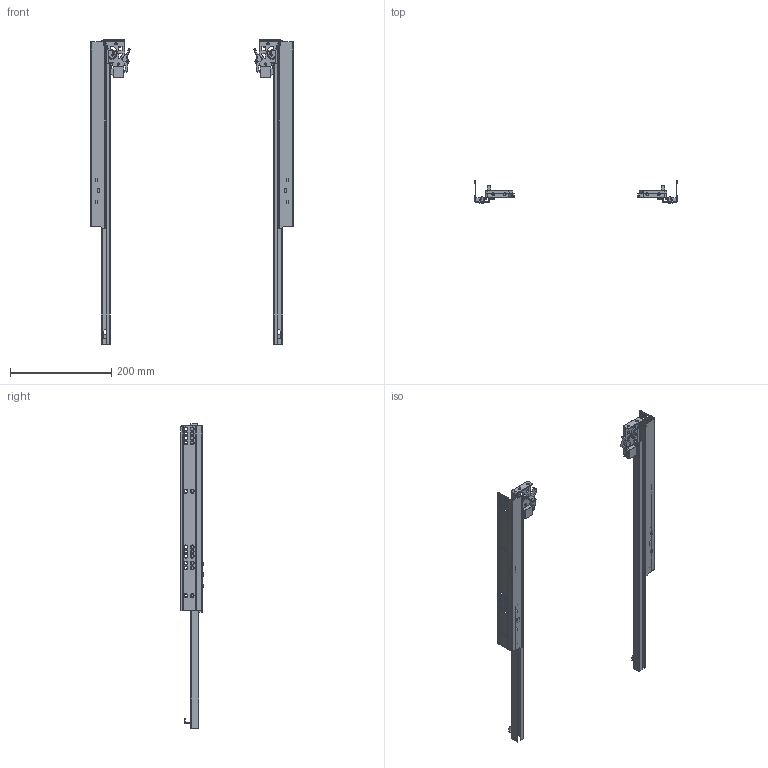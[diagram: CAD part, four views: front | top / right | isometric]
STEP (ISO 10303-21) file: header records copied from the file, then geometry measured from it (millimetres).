
FILE_DESCRIPTION(/* description */ (''),/* implementation_level */ '2;1');
FILE_NAME(/* name */ 'D:\$Workingspace\Designs\Katalog\Cadsoft\GTV Prowadnice\Prowadnice GTV_bryły 3D\PB-GCHX-600.stp',/* time_stamp */ '2016-11-21T15:30:34+01:00',/* author */ ('tomaszw'),/* organization */ (''),/* preprocessor_version */ 'ST-DEVELOPER v16.1',/* originating_system */ 'Autodesk Inventor 2016',/* authorisation */ '');
FILE_SCHEMA (('AUTOMOTIVE_DESIGN { 1 0 10303 214 3 1 1 }'));
Length unit declared in the file: millimetre
Products named in the file (7): PB-GCHX-CL-600; PB-GCHX-CR-600; PB-GCHX-DL-600; PB-GCHX-DR-600; PB-GCHX-SL; PB-GCHX-SR; PB-GCHX
Assembly tree (6 placements, depth 2):
  PB-GCHX
    PB-GCHX-CL-600
    PB-GCHX-CR-600
    PB-GCHX-DL-600
    PB-GCHX-DR-600
    PB-GCHX-SL
    PB-GCHX-SR
Bounding box: 400 x 43.8 x 600.5 mm (x, y, z)
Volume: 267090.9 mm3; surface area: 295858.1 mm2
Topology: 16 solids, 16 shells, 1216 faces, 2908 edges, 1726 vertices
Faces by surface type: cylinder 456, plane 342, torus 222, sphere 82, bspline 70, cone 44
Full cylindrical faces by diameter (mm): 2 x2, 3 x2, 4 x6, 4.5 x6, 5 x2, 6 x44, 7.889 x2, 9 x2
Entity records: 41380 total; most frequent: CARTESIAN_POINT 12145, DIRECTION 6166, ORIENTED_EDGE 5440, EDGE_CURVE 2718, AXIS2_PLACEMENT_3D 2447, VERTEX_POINT 1670, EDGE_LOOP 1498, CIRCLE 1288
